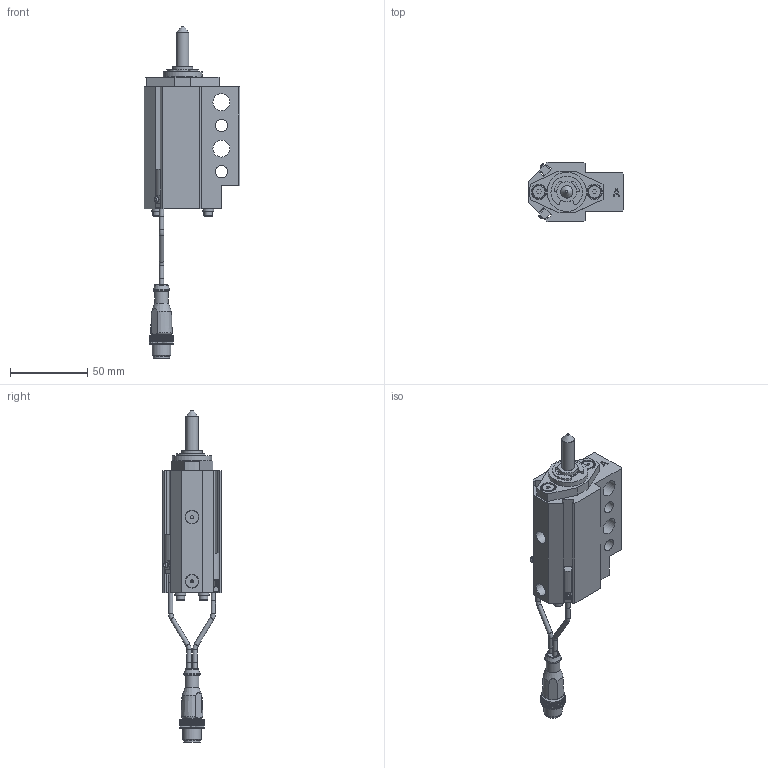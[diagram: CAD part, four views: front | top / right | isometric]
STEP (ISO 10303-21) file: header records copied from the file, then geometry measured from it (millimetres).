
FILE_DESCRIPTION(/* description */ ('NAAMS FLOATING MICRO PIN'),/* implementation_level */ '2;1');
FILE_NAME(/* name */ 'C:\Vault Workspace\CAD\Welker\Shot Pin\NMP\Step files\8mm Pin Dia\NMP080022AANL3.stp',/* time_stamp */ '2021-01-27T08:39:51-05:00',/* author */ ('WELKER'),/* organization */ (''),/* preprocessor_version */ 'ST-DEVELOPER v18.1',/* originating_system */ 'Autodesk Inventor 2020',/* authorisation */ '');
FILE_SCHEMA (('AUTOMOTIVE_DESIGN { 1 0 10303 214 3 1 1 }'));
Length unit declared in the file: millimetre
Products named in the file (16): NMPL01; NMP L3 SWITCH; L3 Connector; L3 Sensor 1; L3 Sensor 2; L3 Sensor cable; L3 Sensor cable 2; M3X0.5-8 SHCS; NL3; NMPE06; NMPE03; NMPE05-DIA-LENGTH; 985432A218; NMPE01A-PORT; RMPE02; M5X5 SHOULDER
Assembly tree (22 placements, depth 3):
  NMPL01
    NMP L3 SWITCH
      L3 Connector
      L3 Sensor 1
      L3 Sensor 2
      L3 Sensor cable
      L3 Sensor cable 2
    M3X0.5-8 SHCS  x4
    NL3  x4
    NMPE06
    NMPE03
    NMPE05-DIA-LENGTH
    985432A218
    NMPE01A-PORT
    RMPE02
    M5X5 SHOULDER  x2
Bounding box: 62 x 38.1 x 214.73 mm (x, y, z)
Volume: 109002 mm3; surface area: 45635.5 mm2
Topology: 21 solids, 21 shells, 744 faces, 2018 edges, 1349 vertices
Faces by surface type: plane 553, cylinder 144, cone 31, torus 11, sphere 3, bspline 2
Full cylindrical faces by diameter (mm): 2 x2, 2.459 x4, 2.9 x10, 3 x5, 3.242 x2, 3.4 x4, 4 x2, 5 x6, 5.5 x4, 7 x4, 8 x3, 8.3 x2, 9 x3, 10 x3, 10.4 x1, 10.5 x1, 11 x2, 12 x1, 13 x3, 16 x2, 19.05 x3, 21 x1, 22.5 x1, 23.672 x1, 24 x1, 25.4 x1, 25.5 x1, 26.5 x1, 28.677 x1, 29.21 x1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
Entity records: 22752 total; most frequent: CARTESIAN_POINT 4155, ORIENTED_EDGE 3734, DIRECTION 3717, EDGE_CURVE 1867, LINE 1383, VECTOR 1383, VERTEX_POINT 1254, AXIS2_PLACEMENT_3D 1167
